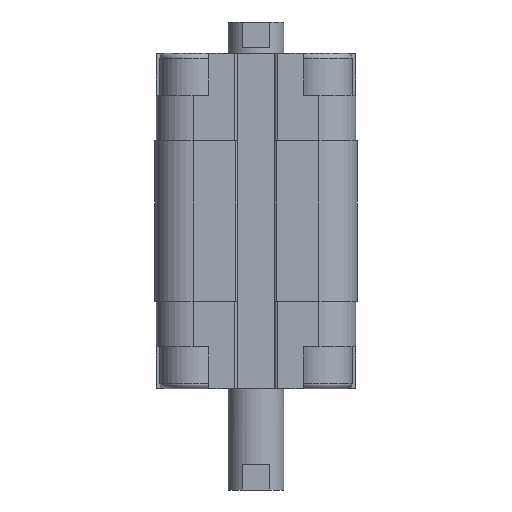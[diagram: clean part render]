
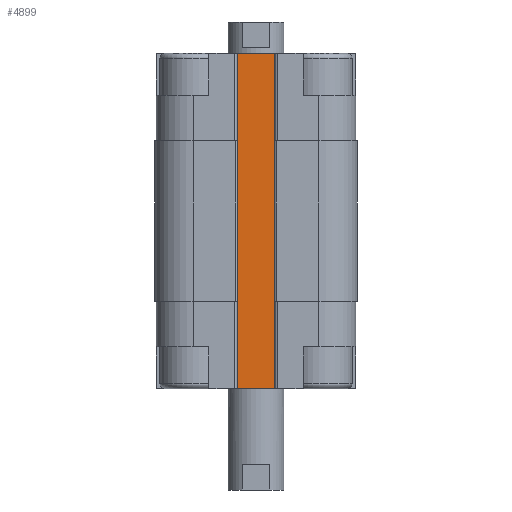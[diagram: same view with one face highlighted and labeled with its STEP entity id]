
A CAD part, front view. The second image highlights one B-rep face of the part: STEP entity #4899.
In plain terms, the highlighted planar face has unit normal (0, -1, 0).
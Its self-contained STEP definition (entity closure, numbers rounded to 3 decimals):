
#71 = CARTESIAN_POINT ( 'NONE',  ( 3., -9.5, -48. ) ) ;
#88 = DIRECTION ( 'NONE',  ( 1., 0., 0. ) ) ;
#149 = CARTESIAN_POINT ( 'NONE',  ( -3., -9.5, -12.5 ) ) ;
#167 = CARTESIAN_POINT ( 'NONE',  ( -3., -9.5, 0. ) ) ;
#237 = DIRECTION ( 'NONE',  ( -1., 0., 0. ) ) ;
#895 = DIRECTION ( 'NONE',  ( 0., 0., 1. ) ) ;
#907 = VECTOR ( 'NONE', #4011, 1000. ) ;
#993 = DIRECTION ( 'NONE',  ( 0., 0., 1. ) ) ;
#1045 = CARTESIAN_POINT ( 'NONE',  ( -3., -9.5, -48. ) ) ;
#1318 = CARTESIAN_POINT ( 'NONE',  ( -3.2, -9.5, -35.5 ) ) ;
#1445 = VECTOR ( 'NONE', #7504, 1000. ) ;
#1784 = VERTEX_POINT ( 'NONE', #1045 ) ;
#2416 = DIRECTION ( 'NONE',  ( 0., 0., 1. ) ) ;
#2481 = DIRECTION ( 'NONE',  ( 1., 0., 0. ) ) ;
#2597 = CARTESIAN_POINT ( 'NONE',  ( 3., -9.5, -12.5 ) ) ;
#2730 = VECTOR ( 'NONE', #895, 1000. ) ;
#2803 = ORIENTED_EDGE ( 'NONE', *, *, #9415, .F. ) ;
#2915 = LINE ( 'NONE', #6867, #5239 ) ;
#3034 = VECTOR ( 'NONE', #993, 1000. ) ;
#3072 = VERTEX_POINT ( 'NONE', #4100 ) ;
#3316 = CARTESIAN_POINT ( 'NONE',  ( 3., -9.5, -48. ) ) ;
#3381 = VERTEX_POINT ( 'NONE', #16367 ) ;
#3433 = CARTESIAN_POINT ( 'NONE',  ( -3., -9.5, 0. ) ) ;
#4011 = DIRECTION ( 'NONE',  ( 1., 0., 0. ) ) ;
#4100 = CARTESIAN_POINT ( 'NONE',  ( -3.2, -9.5, -12.5 ) ) ;
#4156 = EDGE_CURVE ( 'NONE', #17051, #14681, #8048, .T. ) ;
#4426 = EDGE_CURVE ( 'NONE', #10353, #10601, #6881, .T. ) ;
#4662 = VECTOR ( 'NONE', #7144, 1000. ) ;
#4724 = ORIENTED_EDGE ( 'NONE', *, *, #7304, .T. ) ;
#4899 = ADVANCED_FACE ( 'NONE', ( #6782 ), #12513, .T. ) ;
#4986 = CARTESIAN_POINT ( 'NONE',  ( 3.2, -9.5, -35.5 ) ) ;
#5239 = VECTOR ( 'NONE', #8378, 1000. ) ;
#5378 = LINE ( 'NONE', #8413, #9337 ) ;
#5512 = DIRECTION ( 'NONE',  ( 0., -1., 0. ) ) ;
#5985 = VERTEX_POINT ( 'NONE', #14037 ) ;
#6144 = ORIENTED_EDGE ( 'NONE', *, *, #11703, .F. ) ;
#6536 = CARTESIAN_POINT ( 'NONE',  ( -3., -9.5, -12.5 ) ) ;
#6709 = LINE ( 'NONE', #167, #13405 ) ;
#6782 = FACE_OUTER_BOUND ( 'NONE', #16839, .T. ) ;
#6867 = CARTESIAN_POINT ( 'NONE',  ( -3.2, -9.5, -35.5 ) ) ;
#6881 = LINE ( 'NONE', #71, #4662 ) ;
#6949 = EDGE_CURVE ( 'NONE', #3381, #13651, #15857, .T. ) ;
#7144 = DIRECTION ( 'NONE',  ( 0., 0., 1. ) ) ;
#7304 = EDGE_CURVE ( 'NONE', #10601, #3381, #2915, .T. ) ;
#7504 = DIRECTION ( 'NONE',  ( 0., 0., 1. ) ) ;
#7571 = ORIENTED_EDGE ( 'NONE', *, *, #10917, .T. ) ;
#7888 = LINE ( 'NONE', #2597, #3034 ) ;
#8036 = LINE ( 'NONE', #8218, #16487 ) ;
#8048 = LINE ( 'NONE', #9400, #2730 ) ;
#8208 = LINE ( 'NONE', #1318, #10649 ) ;
#8218 = CARTESIAN_POINT ( 'NONE',  ( -3.2, -9.5, -35.5 ) ) ;
#8378 = DIRECTION ( 'NONE',  ( 1., 0., 0. ) ) ;
#8396 = CARTESIAN_POINT ( 'NONE',  ( -3., -9.5, -35.5 ) ) ;
#8413 = CARTESIAN_POINT ( 'NONE',  ( -3.2, -9.5, -12.5 ) ) ;
#8942 = EDGE_CURVE ( 'NONE', #3072, #17051, #5378, .T. ) ;
#8965 = VERTEX_POINT ( 'NONE', #9583 ) ;
#9337 = VECTOR ( 'NONE', #88, 1000. ) ;
#9400 = CARTESIAN_POINT ( 'NONE',  ( -3., -9.5, -12.5 ) ) ;
#9415 = EDGE_CURVE ( 'NONE', #8965, #3072, #8036, .T. ) ;
#9583 = CARTESIAN_POINT ( 'NONE',  ( -3.2, -9.5, -35.5 ) ) ;
#10353 = VERTEX_POINT ( 'NONE', #3316 ) ;
#10601 = VERTEX_POINT ( 'NONE', #16496 ) ;
#10603 = EDGE_CURVE ( 'NONE', #14681, #17354, #6709, .T. ) ;
#10649 = VECTOR ( 'NONE', #13770, 1000. ) ;
#10825 = DIRECTION ( 'NONE',  ( 0., 0., 1. ) ) ;
#10917 = EDGE_CURVE ( 'NONE', #1784, #10353, #15845, .T. ) ;
#11703 = EDGE_CURVE ( 'NONE', #1784, #17155, #17592, .T. ) ;
#11886 = ORIENTED_EDGE ( 'NONE', *, *, #4156, .F. ) ;
#12002 = ORIENTED_EDGE ( 'NONE', *, *, #8942, .F. ) ;
#12079 = CARTESIAN_POINT ( 'NONE',  ( 9., -9.5, -12.5 ) ) ;
#12513 = PLANE ( 'NONE',  #13544 ) ;
#12725 = ORIENTED_EDGE ( 'NONE', *, *, #17033, .F. ) ;
#13155 = ORIENTED_EDGE ( 'NONE', *, *, #15257, .T. ) ;
#13236 = ORIENTED_EDGE ( 'NONE', *, *, #4426, .T. ) ;
#13405 = VECTOR ( 'NONE', #14866, 1000. ) ;
#13544 = AXIS2_PLACEMENT_3D ( 'NONE', #149, #5512, #237 ) ;
#13651 = VERTEX_POINT ( 'NONE', #17783 ) ;
#13770 = DIRECTION ( 'NONE',  ( 1., 0., 0. ) ) ;
#14037 = CARTESIAN_POINT ( 'NONE',  ( 3., -9.5, -12.5 ) ) ;
#14681 = VERTEX_POINT ( 'NONE', #3433 ) ;
#14765 = CARTESIAN_POINT ( 'NONE',  ( -3., -9.5, -48. ) ) ;
#14791 = CARTESIAN_POINT ( 'NONE',  ( -3., -9.5, -48. ) ) ;
#14866 = DIRECTION ( 'NONE',  ( 1., 0., 0. ) ) ;
#14954 = LINE ( 'NONE', #12079, #907 ) ;
#15257 = EDGE_CURVE ( 'NONE', #5985, #17354, #7888, .T. ) ;
#15380 = VECTOR ( 'NONE', #2481, 1000. ) ;
#15424 = ORIENTED_EDGE ( 'NONE', *, *, #6949, .T. ) ;
#15845 = LINE ( 'NONE', #14765, #15380 ) ;
#15849 = ORIENTED_EDGE ( 'NONE', *, *, #17659, .T. ) ;
#15857 = LINE ( 'NONE', #4986, #1445 ) ;
#16367 = CARTESIAN_POINT ( 'NONE',  ( 3.2, -9.5, -35.5 ) ) ;
#16487 = VECTOR ( 'NONE', #10825, 1000. ) ;
#16496 = CARTESIAN_POINT ( 'NONE',  ( 3., -9.5, -35.5 ) ) ;
#16839 = EDGE_LOOP ( 'NONE', ( #17158, #11886, #12002, #2803, #15849, #6144, #7571, #13236, #4724, #15424, #12725, #13155 ) ) ;
#17033 = EDGE_CURVE ( 'NONE', #5985, #13651, #14954, .T. ) ;
#17051 = VERTEX_POINT ( 'NONE', #6536 ) ;
#17138 = CARTESIAN_POINT ( 'NONE',  ( 3., -9.5, 0. ) ) ;
#17155 = VERTEX_POINT ( 'NONE', #8396 ) ;
#17158 = ORIENTED_EDGE ( 'NONE', *, *, #10603, .F. ) ;
#17354 = VERTEX_POINT ( 'NONE', #17138 ) ;
#17566 = VECTOR ( 'NONE', #2416, 1000. ) ;
#17592 = LINE ( 'NONE', #14791, #17566 ) ;
#17659 = EDGE_CURVE ( 'NONE', #8965, #17155, #8208, .T. ) ;
#17783 = CARTESIAN_POINT ( 'NONE',  ( 3.2, -9.5, -12.5 ) ) ;
